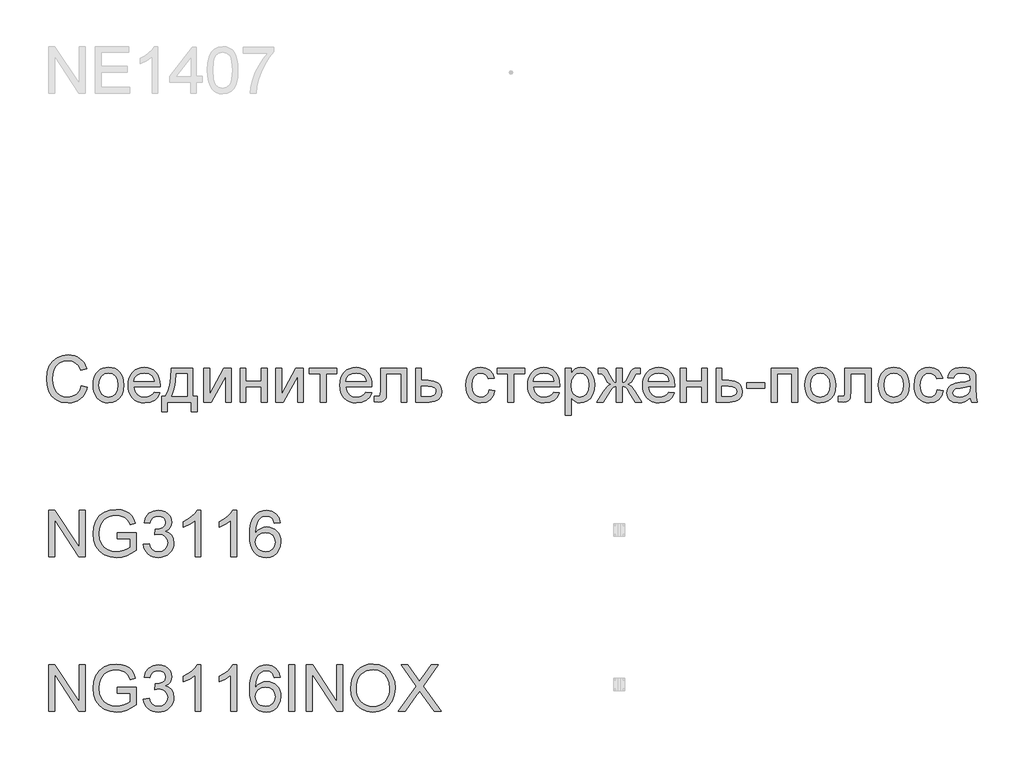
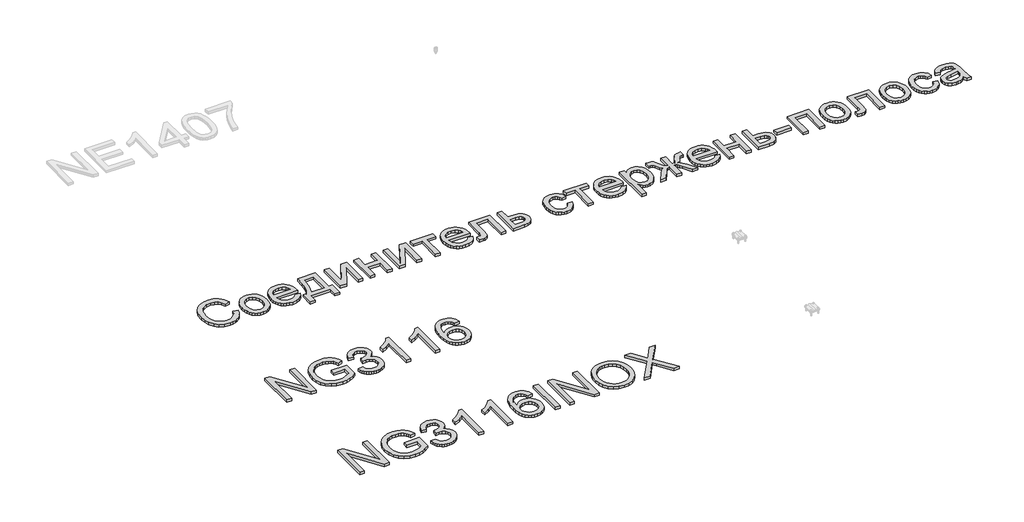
# One storey, part 44 of 124: 3 proxies.
"""IFC4 building model written with IfcOpenShell, lengths in millimetres."""

from ifc_helpers import new_model, si_unit, origin, origin_with_axes, place, context, project, spatial, polyline, outline, extrude, element, save

model = new_model("IFC4")

# Units and contexts
model_context = context("Model", 3, world=origin())
ifc_project = project(units=[si_unit("LENGTHUNIT", "METRE", prefix="MILLI")], contexts=[model_context])

# Site, building, storey
site = spatial("IfcSite", under=ifc_project)
building = spatial("IfcBuilding", under=site)
storey = spatial("IfcBuildingStorey", under=building, Name="Этаж 01", Elevation=0.0)

# Proxies
placement = place(None, origin())
element("IfcBuildingElementProxy", 1, Name="300", ObjectType="300", at=placement, inside=storey, context=model_context, shape_type="SweptSolid", body=[
    extrude(outline(polyline([(32939.8675381, -85074.498362), (32939.8675381, -84773.1294316), (32980.1874048, -84773.1294316), (33137.6408988, -85011.8848464), (33137.6408988, -84773.1294316), (33175.3120151, -84773.1294316), (33175.3120151, -85074.498362), (33134.9921484, -85074.498362), (32977.5386545, -84835.6693707), (32977.5386545, -85074.498362), (32939.8675381, -85074.498362)])), origin_with_axes(), (0.0, 0.0, 1.0), 20.0),
    extrude(outline(polyline([(33382.5031547, -84956.7761235), (33382.5031547, -84919.1050072), (33504.9342827, -84919.1050072), (33504.9342827, -85031.7504742), (33475.1818264, -85052.4438364), (33444.4912709, -85067.2878749), (33412.9361928, -85076.2274074), (33380.5901684, -85079.2072515), (33338.3297242, -85074.4707709), (33300.134376, -85060.2613288), (33268.4045539, -85037.075566), (33245.5406879, -85005.4101233), (33231.717522, -84967.4263073), (33227.1098, -84925.2854248), (33231.6991279, -84882.8410396), (33245.4671115, -84843.3581044), (33267.8435339, -84810.2395278), (33298.2581779, -84786.8882182), (33335.3038948, -84773.0374611), (33377.573536, -84768.420542), (33408.6043823, -84771.0968835), (33436.5082316, -84779.1259081), (33460.0066941, -84791.9282015), (33477.8213797, -84808.9243497), (33491.0007522, -84830.93289), (33500.5932752, -84858.77236), (33465.8652149, -84868.5580211), (33458.1121018, -84848.7015904), (33448.6851257, -84833.7195962), (33436.213926, -84822.4256189), (33419.3281425, -84813.6332392), (33399.1958003, -84807.9770535), (33376.9849248, -84806.0916583), (33350.9848648, -84808.1242063), (33328.7555953, -84814.2218504), (33310.3798896, -84823.6212354), (33295.9405213, -84835.5590061), (33276.5531401, -84864.5848956), (33267.7239723, -84893.0221738), (33264.7809163, -84923.7403204), (33268.3217805, -84959.7651648), (33278.9443731, -84989.4072565), (33296.3267974, -85012.4550635), (33320.1471566, -85028.6970536), (33348.0234147, -85038.3263648), (33377.573536, -85041.5361352), (33403.6655665, -85039.1173111), (33429.1138035, -85031.8608388), (33451.2143144, -85021.8636455), (33467.2631664, -85011.2226588), (33467.2631664, -84956.7761235), (33382.5031547, -84956.7761235)])), origin_with_axes(), (0.0, 0.0, 1.0), 20.0),
    extrude(outline(polyline([(33552.0231781, -84994.4472399), (33589.6942944, -84989.7383503), (33598.1279892, -85013.4115567), (33610.4796272, -85029.3960294), (33627.3562137, -85038.5011088), (33649.364754, -85041.5361352), (33675.1900701, -85037.3606746), (33695.1292742, -85024.8342927), (33707.8763854, -85006.1458873), (33712.1254224, -84983.4843564), (33707.9131736, -84961.9724567), (33695.276427, -84944.5256531), (33676.1465633, -84932.9649614), (33652.4549628, -84929.1113975), (33626.0410356, -84933.2316759), (33630.2348903, -84895.5605595), (33636.268155, -84896.0020179), (33658.8377154, -84893.2980853), (33679.0160429, -84885.1862873), (33693.2530761, -84871.4642889), (33697.9987538, -84851.9297549), (33694.5590572, -84835.6601737), (33684.2399672, -84822.4624071), (33668.4946178, -84813.7160127), (33648.7761429, -84810.8005479), (33629.0208797, -84813.7436038), (33612.8708601, -84822.5727717), (33601.0802422, -84837.2880515), (33594.403184, -84857.8894432), (33556.7320677, -84853.1805537), (33567.8237098, -84819.3538042), (33587.5605789, -84794.0987053), (33614.5631173, -84778.37175), (33647.4517677, -84773.1294316), (33671.1341711, -84775.7138026), (33692.8851941, -84783.4669156), (33711.2241115, -84795.698992), (33724.6701985, -84811.7202528), (33732.9199522, -84830.178732), (33735.6698701, -84849.7224629), (33733.0579079, -84867.9326217), (33725.2220215, -84884.4505233), (33712.2725752, -84898.5220096), (33694.3199339, -84909.3929226), (33717.9011697, -84918.9210662), (33735.3755645, -84935.1446622), (33746.1912952, -84957.1807937), (33749.7965387, -84984.146544), (33747.993917, -85003.2580136), (33742.5860516, -85020.8611671), (33733.5729427, -85036.9560044), (33720.9545903, -85051.5425255), (33705.5817214, -85063.6458431), (33688.3050632, -85072.29107), (33669.1246157, -85077.4782062), (33648.0403789, -85079.2072515), (33628.9840915, -85077.731125), (33611.6200613, -85073.3027455), (33595.9482883, -85065.922113), (33581.9687725, -85055.5892274), (33570.2471325, -85042.9110942), (33561.3489867, -85028.4947185), (33555.2743353, -85012.3401004), (33552.0231781, -84994.4472399)])), origin_with_axes(), (0.0, 0.0, 1.0), 20.0),
    extrude(outline(polyline([(33924.0254516, -85074.498362), (33886.3543353, -85074.498362), (33886.3543353, -84839.6424963), (33850.6697818, -84865.0631421), (33811.0121027, -84884.0826413), (33811.0121027, -84848.4716642), (33840.5990122, -84832.3768269), (33866.2311902, -84813.228569), (33886.4371088, -84792.8663006), (33899.74524, -84773.1294316), (33924.0254516, -84773.1294316), (33924.0254516, -85074.498362)])), origin_with_axes(), (0.0, 0.0, 1.0), 20.0),
    extrude(outline(polyline([(34154.761039, -85074.498362), (34117.0899227, -85074.498362), (34117.0899227, -84839.6424963), (34081.4053692, -84865.0631421), (34041.7476901, -84884.0826413), (34041.7476901, -84848.4716642), (34071.3345996, -84832.3768269), (34096.9667776, -84813.228569), (34117.1726962, -84792.8663006), (34130.4808273, -84773.1294316), (34154.761039, -84773.1294316), (34154.761039, -85074.498362)])), origin_with_axes(), (0.0, 0.0, 1.0), 20.0),
    extrude(outline(polyline([(34437.2944113, -84853.1805537), (34399.623295, -84857.8894432), (34393.5532421, -84839.219432), (34385.3494736, -84826.4723209), (34368.2613549, -84814.7184911), (34347.6047809, -84810.8005479), (34330.0935979, -84813.0814162), (34313.6124845, -84819.9240213), (34299.4582248, -84834.3357985), (34287.8975331, -84854.1738351), (34280.0892377, -84882.2340343), (34277.192167, -84921.3122992), (34292.30292, -84903.6815546), (34310.4119112, -84891.2563402), (34330.5074652, -84883.8895033), (34351.5779064, -84881.4338909), (34369.6777006, -84883.1123525), (34386.3795432, -84888.1477373), (34401.6834342, -84896.5400454), (34415.5893736, -84908.2892766), (34427.1454668, -84922.6964552), (34435.399819, -84939.0626055), (34440.3524304, -84957.3877274), (34442.0033009, -84977.6718209), (34438.894698, -85004.6467682), (34429.5688894, -85029.6535468), (34414.7984273, -85050.8619438), (34395.3558639, -85066.4417463), (34372.1241159, -85076.0158752), (34345.9861001, -85079.2072515), (34323.5292036, -85077.0919301), (34303.2474093, -85070.7459657), (34285.1407174, -85060.1693583), (34269.2091277, -85045.362108), (34256.220594, -85025.6988153), (34246.94307, -85000.554081), (34241.3765555, -84969.9279049), (34239.5210507, -84933.820287), (34241.5811899, -84893.339472), (34247.7616074, -84858.7907541), (34258.0623033, -84830.1741334), (34272.4832775, -84807.4896099), (34288.1136637, -84792.4570319), (34306.2364505, -84781.7194761), (34326.8516378, -84775.2769427), (34349.9592257, -84773.1294316), (34383.0134229, -84778.4453264), (34409.4825325, -84794.3930109), (34428.023785, -84819.7216862), (34437.2944113, -84853.1805537)]), holes=[polyline([(34277.192167, -84977.0832097), (34279.3718678, -84993.7758552), (34285.9109703, -85009.7143427), (34296.0645134, -85023.417947), (34309.087536, -85033.4059431), (34324.8052942, -85039.5035872), (34343.0430442, -85041.5361352), (34367.90267, -85037.3238864), (34387.446401, -85024.6871399), (34400.1107387, -85004.8215121), (34404.3321845, -84978.9226197), (34400.165921, -84954.0629938), (34387.6671302, -84935.107874), (34367.7923054, -84923.1057239), (34341.4979398, -84919.1050072), (34316.6751021, -84923.1057239), (34295.9173606, -84935.107874), (34281.8734654, -84953.6031413), (34277.192167, -84977.0832097)])]), origin_with_axes(), (0.0, 0.0, 1.0), 20.0),
])
element("IfcBuildingElementProxy", 2, Name="300", ObjectType="300", at=placement, inside=storey, context=model_context, shape_type="SweptSolid", body=[
    extrude(outline(polyline([(32939.8675381, -86074.498362), (32939.8675381, -85773.1294316), (32980.1874048, -85773.1294316), (33137.6408988, -86011.8848464), (33137.6408988, -85773.1294316), (33175.3120151, -85773.1294316), (33175.3120151, -86074.498362), (33134.9921484, -86074.498362), (32977.5386545, -85835.6693707), (32977.5386545, -86074.498362), (32939.8675381, -86074.498362)])), origin_with_axes(), (0.0, 0.0, 1.0), 20.0),
    extrude(outline(polyline([(33382.5031547, -85956.7761235), (33382.5031547, -85919.1050072), (33504.9342827, -85919.1050072), (33504.9342827, -86031.7504742), (33475.1818264, -86052.4438364), (33444.4912709, -86067.2878749), (33412.9361928, -86076.2274074), (33380.5901684, -86079.2072515), (33338.3297242, -86074.4707709), (33300.134376, -86060.2613288), (33268.4045539, -86037.075566), (33245.5406879, -86005.4101233), (33231.717522, -85967.4263073), (33227.1098, -85925.2854248), (33231.6991279, -85882.8410396), (33245.4671115, -85843.3581044), (33267.8435339, -85810.2395278), (33298.2581779, -85786.8882182), (33335.3038948, -85773.0374611), (33377.573536, -85768.420542), (33408.6043823, -85771.0968835), (33436.5082316, -85779.1259081), (33460.0066941, -85791.9282015), (33477.8213797, -85808.9243497), (33491.0007522, -85830.93289), (33500.5932752, -85858.77236), (33465.8652149, -85868.5580211), (33458.1121018, -85848.7015904), (33448.6851257, -85833.7195962), (33436.213926, -85822.4256189), (33419.3281425, -85813.6332392), (33399.1958003, -85807.9770535), (33376.9849248, -85806.0916583), (33350.9848648, -85808.1242063), (33328.7555953, -85814.2218504), (33310.3798896, -85823.6212354), (33295.9405213, -85835.5590061), (33276.5531401, -85864.5848956), (33267.7239723, -85893.0221738), (33264.7809163, -85923.7403204), (33268.3217805, -85959.7651648), (33278.9443731, -85989.4072565), (33296.3267974, -86012.4550635), (33320.1471566, -86028.6970536), (33348.0234147, -86038.3263648), (33377.573536, -86041.5361352), (33403.6655665, -86039.1173111), (33429.1138035, -86031.8608388), (33451.2143144, -86021.8636455), (33467.2631664, -86011.2226588), (33467.2631664, -85956.7761235), (33382.5031547, -85956.7761235)])), origin_with_axes(), (0.0, 0.0, 1.0), 20.0),
    extrude(outline(polyline([(33552.0231781, -85994.4472399), (33589.6942944, -85989.7383503), (33598.1279892, -86013.4115567), (33610.4796272, -86029.3960294), (33627.3562137, -86038.5011088), (33649.364754, -86041.5361352), (33675.1900701, -86037.3606746), (33695.1292742, -86024.8342927), (33707.8763854, -86006.1458873), (33712.1254224, -85983.4843564), (33707.9131736, -85961.9724567), (33695.276427, -85944.5256531), (33676.1465633, -85932.9649614), (33652.4549628, -85929.1113975), (33626.0410356, -85933.2316759), (33630.2348903, -85895.5605595), (33636.268155, -85896.0020179), (33658.8377154, -85893.2980853), (33679.0160429, -85885.1862873), (33693.2530761, -85871.4642889), (33697.9987538, -85851.9297549), (33694.5590572, -85835.6601737), (33684.2399672, -85822.4624071), (33668.4946178, -85813.7160127), (33648.7761429, -85810.8005479), (33629.0208797, -85813.7436038), (33612.8708601, -85822.5727717), (33601.0802422, -85837.2880515), (33594.403184, -85857.8894432), (33556.7320677, -85853.1805537), (33567.8237098, -85819.3538042), (33587.5605789, -85794.0987053), (33614.5631173, -85778.37175), (33647.4517677, -85773.1294316), (33671.1341711, -85775.7138026), (33692.8851941, -85783.4669156), (33711.2241115, -85795.698992), (33724.6701985, -85811.7202528), (33732.9199522, -85830.178732), (33735.6698701, -85849.7224629), (33733.0579079, -85867.9326217), (33725.2220215, -85884.4505233), (33712.2725752, -85898.5220096), (33694.3199339, -85909.3929226), (33717.9011697, -85918.9210662), (33735.3755645, -85935.1446622), (33746.1912952, -85957.1807937), (33749.7965387, -85984.146544), (33747.993917, -86003.2580136), (33742.5860516, -86020.8611671), (33733.5729427, -86036.9560044), (33720.9545903, -86051.5425255), (33705.5817214, -86063.6458431), (33688.3050632, -86072.29107), (33669.1246157, -86077.4782062), (33648.0403789, -86079.2072515), (33628.9840915, -86077.731125), (33611.6200613, -86073.3027455), (33595.9482883, -86065.922113), (33581.9687725, -86055.5892274), (33570.2471325, -86042.9110942), (33561.3489867, -86028.4947185), (33555.2743353, -86012.3401004), (33552.0231781, -85994.4472399)])), origin_with_axes(), (0.0, 0.0, 1.0), 20.0),
    extrude(outline(polyline([(33924.0254516, -86074.498362), (33886.3543353, -86074.498362), (33886.3543353, -85839.6424963), (33850.6697818, -85865.0631421), (33811.0121027, -85884.0826413), (33811.0121027, -85848.4716642), (33840.5990122, -85832.3768269), (33866.2311902, -85813.228569), (33886.4371088, -85792.8663006), (33899.74524, -85773.1294316), (33924.0254516, -85773.1294316), (33924.0254516, -86074.498362)])), origin_with_axes(), (0.0, 0.0, 1.0), 20.0),
    extrude(outline(polyline([(34154.761039, -86074.498362), (34117.0899227, -86074.498362), (34117.0899227, -85839.6424963), (34081.4053692, -85865.0631421), (34041.7476901, -85884.0826413), (34041.7476901, -85848.4716642), (34071.3345996, -85832.3768269), (34096.9667776, -85813.228569), (34117.1726962, -85792.8663006), (34130.4808273, -85773.1294316), (34154.761039, -85773.1294316), (34154.761039, -86074.498362)])), origin_with_axes(), (0.0, 0.0, 1.0), 20.0),
    extrude(outline(polyline([(34437.2944113, -85853.1805537), (34399.623295, -85857.8894432), (34393.5532421, -85839.219432), (34385.3494736, -85826.4723209), (34368.2613549, -85814.7184911), (34347.6047809, -85810.8005479), (34330.0935979, -85813.0814162), (34313.6124845, -85819.9240213), (34299.4582248, -85834.3357985), (34287.8975331, -85854.1738351), (34280.0892377, -85882.2340343), (34277.192167, -85921.3122992), (34292.30292, -85903.6815546), (34310.4119112, -85891.2563402), (34330.5074652, -85883.8895033), (34351.5779064, -85881.4338909), (34369.6777006, -85883.1123525), (34386.3795432, -85888.1477373), (34401.6834342, -85896.5400454), (34415.5893736, -85908.2892766), (34427.1454668, -85922.6964552), (34435.399819, -85939.0626055), (34440.3524304, -85957.3877274), (34442.0033009, -85977.6718209), (34438.894698, -86004.6467682), (34429.5688894, -86029.6535468), (34414.7984273, -86050.8619438), (34395.3558639, -86066.4417463), (34372.1241159, -86076.0158752), (34345.9861001, -86079.2072515), (34323.5292036, -86077.0919301), (34303.2474093, -86070.7459657), (34285.1407174, -86060.1693583), (34269.2091277, -86045.362108), (34256.220594, -86025.6988153), (34246.94307, -86000.554081), (34241.3765555, -85969.9279049), (34239.5210507, -85933.820287), (34241.5811899, -85893.339472), (34247.7616074, -85858.7907541), (34258.0623033, -85830.1741334), (34272.4832775, -85807.4896099), (34288.1136637, -85792.4570319), (34306.2364505, -85781.7194761), (34326.8516378, -85775.2769427), (34349.9592257, -85773.1294316), (34383.0134229, -85778.4453264), (34409.4825325, -85794.3930109), (34428.023785, -85819.7216862), (34437.2944113, -85853.1805537)]), holes=[polyline([(34277.192167, -85977.0832097), (34279.3718678, -85993.7758552), (34285.9109703, -86009.7143427), (34296.0645134, -86023.417947), (34309.087536, -86033.4059431), (34324.8052942, -86039.5035872), (34343.0430442, -86041.5361352), (34367.90267, -86037.3238864), (34387.446401, -86024.6871399), (34400.1107387, -86004.8215121), (34404.3321845, -85978.9226197), (34400.165921, -85954.0629938), (34387.6671302, -85935.107874), (34367.7923054, -85923.1057239), (34341.4979398, -85919.1050072), (34316.6751021, -85923.1057239), (34295.9173606, -85935.107874), (34281.8734654, -85953.6031413), (34277.192167, -85977.0832097)])]), origin_with_axes(), (0.0, 0.0, 1.0), 20.0),
    extrude(outline(polyline([(34493.8010858, -86074.498362), (34493.8010858, -85773.1294316), (34531.4722021, -85773.1294316), (34531.4722021, -86074.498362), (34493.8010858, -86074.498362)])), origin_with_axes(), (0.0, 0.0, 1.0), 20.0),
    extrude(outline(polyline([(34606.8144347, -86074.498362), (34606.8144347, -85773.1294316), (34647.1343014, -85773.1294316), (34804.5877953, -86011.8848464), (34804.5877953, -85773.1294316), (34842.2589116, -85773.1294316), (34842.2589116, -86074.498362), (34801.9390449, -86074.498362), (34644.485551, -85835.6693707), (34644.485551, -86074.498362), (34606.8144347, -86074.498362)])), origin_with_axes(), (0.0, 0.0, 1.0), 20.0),
    extrude(outline(polyline([(34894.0566965, -85927.7870223), (34896.5674911, -85892.4381611), (34904.099875, -85861.1451989), (34916.6538481, -85833.9081357), (34934.2294104, -85810.7269715), (34955.7734997, -85792.2179086), (34980.2330539, -85778.9971494), (35007.6080729, -85771.0646939), (35037.8985566, -85768.420542), (35077.427477, -85773.3869489), (35112.8729073, -85788.2861698), (35142.3034669, -85812.0697407), (35163.7877754, -85843.6891982), (35176.9211626, -85881.6178319), (35181.2989584, -85924.3289316), (35176.6912364, -85967.6102483), (35162.8680704, -86006.0723109), (35140.5928156, -86037.7469507), (35110.6288271, -86060.665999), (35075.4868995, -86074.5719384), (35037.6778274, -86079.2072515), (34997.5419018, -86074.0844948), (34961.8941364, -86058.7162244), (34932.5371532, -86034.491195), (34911.2735739, -86002.7981611), (34898.3609159, -85966.3318584), (34894.0566965, -85927.7870223)]), holes=[polyline([(34931.7278128, -85928.1549043), (34933.6109088, -85953.1294933), (34939.2601967, -85975.298982), (34948.6756765, -85994.6633705), (34961.8573482, -86011.2226588), (34977.8809084, -86024.4848048), (34995.8220534, -86033.9577661), (35015.6807834, -86039.641543), (35037.4570982, -86041.5361352), (35059.6058936, -86039.6231489), (35079.6991483, -86033.8841897), (35097.7368624, -86024.3192579), (35113.7190358, -86010.9283532), (35126.8041386, -85994.019577), (35136.1506405, -85973.9010304), (35141.7585417, -85950.5727134), (35143.6278421, -85924.034626), (35140.4272687, -85890.6861231), (35130.8255486, -85861.8625688), (35115.0710022, -85838.2905299), (35093.4119497, -85820.6965735), (35067.283131, -85809.7428871), (35038.1192858, -85806.0916583), (35017.0994283, -85807.8505941), (34997.5970841, -85813.1274015), (34979.612253, -85821.9220804), (34963.1449352, -85834.234631), (34949.3999442, -85850.6582628), (34939.5820934, -85871.7861856), (34933.691383, -85897.6183995), (34931.7278128, -85928.1549043)])]), origin_with_axes(), (0.0, 0.0, 1.0), 20.0),
    extrude(outline(polyline([(35200.1345165, -86074.498362), (35316.3116506, -85910.2758394), (35218.9700747, -85773.1294316), (35264.1459837, -85773.1294316), (35318.960401, -85850.3110741), (35337.4280771, -85880.4038213), (35359.0595384, -85849.7960393), (35413.2853445, -85773.1294316), (35459.1234411, -85773.1294316), (35361.7818652, -85910.7172977), (35477.9589993, -86074.498362), (35432.7830903, -86074.498362), (35355.3807185, -85965.3109858), (35339.2674871, -85942.6494549), (35321.5355749, -85967.5182778), (35245.9726131, -86074.498362), (35200.1345165, -86074.498362)])), origin_with_axes(), (0.0, 0.0, 1.0), 20.0),
])
element("IfcBuildingElementProxy", 3, Name="300", ObjectType="300", at=placement, inside=storey, context=model_context, shape_type="SweptSolid", body=[
    extrude(outline(polyline([(33151.7675674, -83967.371125), (33189.4386837, -83977.0832097), (33181.9844747, -84000.510395), (33172.0562594, -84020.9807288), (33159.6540376, -84038.494211), (33144.7778095, -84053.0508417), (33127.7632672, -84064.494271), (33108.9461031, -84072.6681491), (33088.3263173, -84077.5724759), (33065.9039097, -84079.2072515), (33022.2087257, -84074.2592387), (32987.5082565, -84059.4152002), (32960.9103883, -84035.1901708), (32941.5230071, -84002.0991854), (32929.6864039, -83963.1956644), (32925.7408695, -83921.5330284), (32930.2014387, -83877.5895241), (32943.5831463, -83839.6424963), (32965.1870165, -83808.8967585), (32994.3140734, -83786.5571244), (33028.8581928, -83772.9546876), (33066.7132501, -83768.420542), (33108.0172011, -83774.2882598), (33125.9859373, -83781.6229071), (33142.1658473, -83791.8914133), (33156.2902166, -83804.8224654), (33168.0923309, -83820.1447505), (33184.7297941, -83857.9630196), (33147.0586778, -83866.9393403), (33133.998867, -83839.4677523), (33116.1565902, -83820.6229971), (33093.3111183, -83809.724493), (33065.2417221, -83806.0916583), (33032.8865006, -83810.1199662), (33006.3070265, -83822.2048897), (32986.1378961, -83841.0772361), (32973.0137059, -83865.4678123), (32965.8124159, -83893.0405679), (32963.4119858, -83921.459452), (32966.2538743, -83956.2610888), (32974.7795395, -83986.353836), (32989.3108783, -84010.5880624), (33010.1697874, -84027.8141368), (33035.176566, -84038.1056356), (33062.1515133, -84041.5361352), (33093.5962269, -84036.8640339), (33119.798622, -84022.8477299), (33139.5814763, -83999.634376), (33151.7675674, -83967.371125)])), origin_with_axes(), (0.0, 0.0, 1.0), 20.0),
    extrude(outline(polyline([(33227.1098, -83963.8394579), (33229.1469465, -83935.1768519), (33235.2583862, -83910.4781745), (33245.4441189, -83889.7434255), (33259.7041448, -83872.972605), (33274.0607396, -83862.2534434), (33289.9072566, -83854.5968994), (33307.2436956, -83850.002973), (33326.0700567, -83848.4716642), (33346.8530902, -83850.336366), (33365.6449623, -83855.9304716), (33382.4456732, -83865.2539809), (33397.2552228, -83878.306894), (33409.3424456, -83894.6477523), (33417.9761761, -83913.8350977), (33423.1564145, -83935.8689299), (33424.8831606, -83960.7492491), (33421.82974, -83998.8066415), (33412.6694784, -84027.7773486), (33397.66909, -84049.4731893), (33377.0952894, -84065.7059823), (33352.6587279, -84075.8319342), (33326.0700567, -84079.2072515), (33304.9835206, -84077.3494475), (33286.0169045, -84071.7760352), (33269.1702083, -84062.4870149), (33254.4434322, -84049.4823863), (33242.4849681, -84032.9828788), (33233.943208, -84013.2092216), (33228.818152, -83990.1614146), (33227.1098, -83963.8394579)]), holes=[polyline([(33264.7809163, -83963.7658815), (33269.1403179, -83997.8593454), (33282.2185229, -84022.1487541), (33301.9002096, -84036.6892899), (33326.0700567, -84041.5361352), (33350.1295392, -84036.6616988), (33369.7744377, -84022.0383895), (33382.8526426, -83997.427084), (33387.2120443, -83962.5886591), (33382.8250515, -83929.4884766), (33369.6640731, -83905.5301616), (33349.9915834, -83890.9896258), (33326.0700567, -83886.1427805), (33301.9002096, -83890.9712317), (33282.2185229, -83905.4565852), (33269.1403179, -83929.6908117), (33264.7809163, -83963.7658815)])]), origin_with_axes(), (0.0, 0.0, 1.0), 20.0),
    extrude(outline(polyline([(33622.2150628, -84008.5739085), (33659.1504151, -84013.282798), (33645.8422839, -84041.1130709), (33624.6062958, -84061.9167978), (33595.9206972, -84074.8846381), (33560.2637348, -84079.2072515), (33536.8894325, -84077.3425497), (33516.0627131, -84071.7484441), (33497.7835765, -84062.4249348), (33482.0520226, -84049.3720217), (33469.4014805, -84032.9529884), (33460.365379, -84013.5311184), (33454.9437181, -83991.1064115), (33453.1364978, -83965.6788678), (33454.9621122, -83939.3891007), (33460.4389554, -83916.2171336), (33469.5670274, -83896.1629663), (33482.3463282, -83879.226599), (33498.0364953, -83865.771315), (33515.8971662, -83856.1603979), (33535.9283408, -83850.3938476), (33558.1300192, -83848.4716642), (33579.616627, -83850.3892491), (33599.0476942, -83856.1420038), (33616.4232206, -83865.7299283), (33631.7432065, -83879.1530226), (33644.2488951, -83896.0526017), (33653.1815297, -83916.0699808), (33658.5411106, -83939.2051598), (33660.3276375, -83965.4581386), (33660.1069083, -83975.6116817), (33490.8076141, -83975.6116817), (33497.3283225, -84003.8098366), (33512.4758636, -84024.5399871), (33534.3372512, -84037.2870982), (33560.9994988, -84041.5361352), (33581.0490675, -84039.5679666), (33597.9348511, -84033.6634605), (33611.6568495, -84023.4547352), (33622.2150628, -84008.5739085)]), holes=[polyline([(33490.8076141, -83937.9405654), (33622.6565212, -83937.9405654), (33617.5613556, -83918.0381495), (33607.5733594, -83903.8011162), (33585.6108043, -83890.5573644), (33557.9828664, -83886.1427805), (33532.5898117, -83889.6652506), (33511.5929469, -83900.2326609), (33496.9972287, -83916.7045772), (33490.8076141, -83937.9405654)])]), origin_with_axes(), (0.0, 0.0, 1.0), 20.0),
    extrude(outline(polyline([(33730.9609806, -83853.1805537), (33872.2276667, -83853.1805537), (33872.2276667, -84036.8272457), (33900.481004, -84036.8272457), (33900.481004, -84135.713926), (33862.8098876, -84135.713926), (33862.8098876, -84074.498362), (33707.4165329, -84074.498362), (33707.4165329, -84135.713926), (33669.7454166, -84135.713926), (33669.7454166, -84036.8272457), (33693.2898643, -84036.8272457), (33710.4055741, -84005.897567), (33722.3893301, -83964.979892), (33729.2411322, -83914.074221), (33730.9609806, -83853.1805537)]), holes=[polyline([(33763.9232073, -83890.85167), (33760.8329986, -83936.9748752), (33755.0940395, -83976.6785395), (33746.70633, -84009.962663), (33735.6698701, -84036.8272457), (33834.5565504, -84036.8272457), (33834.5565504, -83890.85167), (33763.9232073, -83890.85167)])]), origin_with_axes(), (0.0, 0.0, 1.0), 20.0),
    extrude(outline(polyline([(33942.8610098, -83853.1805537), (33980.5321261, -83853.1805537), (33980.5321261, -84021.9648131), (34073.0912361, -83853.1805537), (34121.7988123, -83853.1805537), (34121.7988123, -84074.498362), (34084.1276959, -84074.498362), (34084.1276959, -83906.7441722), (33992.1571972, -84074.498362), (33942.8610098, -84074.498362), (33942.8610098, -83853.1805537)])), origin_with_axes(), (0.0, 0.0, 1.0), 20.0),
    extrude(outline(polyline([(34178.3054867, -83853.1805537), (34215.976603, -83853.1805537), (34215.976603, -83937.9405654), (34314.8632833, -83937.9405654), (34314.8632833, -83853.1805537), (34352.5343996, -83853.1805537), (34352.5343996, -84074.498362), (34314.8632833, -84074.498362), (34314.8632833, -83975.6116817), (34215.976603, -83975.6116817), (34215.976603, -84074.498362), (34178.3054867, -84074.498362), (34178.3054867, -83853.1805537)])), origin_with_axes(), (0.0, 0.0, 1.0), 20.0),
    extrude(outline(polyline([(34409.0410741, -83853.1805537), (34446.7121904, -83853.1805537), (34446.7121904, -84021.9648131), (34539.2713004, -83853.1805537), (34587.9788765, -83853.1805537), (34587.9788765, -84074.498362), (34550.3077602, -84074.498362), (34550.3077602, -83906.7441722), (34458.3372614, -84074.498362), (34409.0410741, -84074.498362), (34409.0410741, -83853.1805537)])), origin_with_axes(), (0.0, 0.0, 1.0), 20.0),
    extrude(outline(polyline([(34625.6499928, -83853.1805537), (34804.5877953, -83853.1805537), (34804.5877953, -83890.85167), (34733.9544522, -83890.85167), (34733.9544522, -84074.498362), (34696.2833359, -84074.498362), (34696.2833359, -83890.85167), (34625.6499928, -83890.85167), (34625.6499928, -83853.1805537)])), origin_with_axes(), (0.0, 0.0, 1.0), 20.0),
    extrude(outline(polyline([(34992.5019184, -84008.5739085), (35029.4372708, -84013.282798), (35016.1291396, -84041.1130709), (34994.8931514, -84061.9167978), (34966.2075528, -84074.8846381), (34930.5505904, -84079.2072515), (34907.1762882, -84077.3425497), (34886.3495687, -84071.7484441), (34868.0704321, -84062.4249348), (34852.3388783, -84049.3720217), (34839.6883362, -84032.9529884), (34830.6522347, -84013.5311184), (34825.2305738, -83991.1064115), (34823.4233535, -83965.6788678), (34825.2489679, -83939.3891007), (34830.7258111, -83916.2171336), (34839.8538831, -83896.1629663), (34852.6331839, -83879.226599), (34868.323351, -83865.771315), (34886.1840218, -83856.1603979), (34906.2151965, -83850.3938476), (34928.4168749, -83848.4716642), (34949.9034827, -83850.3892491), (34969.3345498, -83856.1420038), (34986.7100763, -83865.7299283), (35002.0300621, -83879.1530226), (35014.5357507, -83896.0526017), (35023.4683854, -83916.0699808), (35028.8279662, -83939.2051598), (35030.6144931, -83965.4581386), (35030.3937639, -83975.6116817), (34861.0944698, -83975.6116817), (34867.6151781, -84003.8098366), (34882.7627193, -84024.5399871), (34904.6241068, -84037.2870982), (34931.2863544, -84041.5361352), (34951.3359232, -84039.5679666), (34968.2217068, -84033.6634605), (34981.9437052, -84023.4547352), (34992.5019184, -84008.5739085)]), holes=[polyline([(34861.0944698, -83937.9405654), (34992.9433768, -83937.9405654), (34987.8482112, -83918.0381495), (34977.860215, -83903.8011162), (34955.8976599, -83890.5573644), (34928.2697221, -83886.1427805), (34902.8766674, -83889.6652506), (34881.8798025, -83900.2326609), (34867.2840843, -83916.7045772), (34861.0944698, -83937.9405654)])]), origin_with_axes(), (0.0, 0.0, 1.0), 20.0),
    extrude(outline(polyline([(35087.1211676, -83853.1805537), (35256.641191, -83853.1805537), (35256.641191, -84074.2776328), (35218.9700747, -84074.2776328), (35218.9700747, -83890.85167), (35124.7922839, -83890.85167), (35124.7922839, -83996.4338026), (35122.2538981, -84045.1413788), (35117.4990233, -84056.1686416), (35108.3111705, -84065.7059823), (35094.3684429, -84072.3002671), (35075.3489438, -84074.498362), (35044.7411618, -84072.5853756), (35044.7411618, -84036.8272457), (35061.5901571, -84036.8272457), (35078.6230935, -84034.5095891), (35085.4289104, -84027.1519492), (35087.1211676, -83994.3000871), (35087.1211676, -83853.1805537)])), origin_with_axes(), (0.0, 0.0, 1.0), 20.0),
    extrude(outline(polyline([(35313.1478654, -83853.1805537), (35350.8189817, -83853.1805537), (35350.8189817, -83933.2316759), (35394.2290572, -83933.2316759), (35431.8633853, -83937.9497624), (35447.0109264, -83943.8473707), (35459.7120523, -83952.1040222), (35469.7552308, -83962.4346085), (35476.9289297, -83974.554021), (35482.6678888, -84004.1593245), (35477.7842553, -84031.1158777), (35463.1333549, -84053.8601821), (35451.9014577, -84062.8893858), (35437.7403002, -84069.338817), (35400.6302039, -84074.498362), (35313.1478654, -84074.498362), (35313.1478654, -83853.1805537)]), holes=[polyline([(35350.8189817, -84036.8272457), (35385.9885005, -84036.8272457), (35413.2761475, -84034.84988), (35431.4219269, -84028.9177828), (35441.6030611, -84018.7918309), (35444.9967725, -84004.2329009), (35442.4859779, -83991.9272482), (35434.953594, -83981.0563352), (35418.8127715, -83973.4411779), (35390.4766608, -83970.9027922), (35350.8189817, -83970.9027922), (35350.8189817, -84036.8272457)])]), origin_with_axes(), (0.0, 0.0, 1.0), 20.0),
    extrude(outline(polyline([(35788.7457088, -83994.4472399), (35826.4168251, -83999.1561294), (35815.9137941, -84032.6609821), (35796.1769251, -84057.9804604), (35769.0640221, -84073.9005538), (35736.4328891, -84079.2072515), (35715.3049662, -84077.3563453), (35696.3613428, -84071.8036264), (35679.6020186, -84062.5490949), (35665.0269938, -84049.5927509), (35653.2294781, -84033.1783162), (35644.8026811, -84013.5495125), (35639.746603, -83990.7063398), (35638.0612436, -83964.6487982), (35640.9399202, -83931.1255514), (35649.57595, -83902.0720709), (35664.1072888, -83878.6103966), (35684.6718924, -83861.8625688), (35709.2740008, -83851.8193903), (35735.9178543, -83848.4716642), (35767.7488439, -83853.0701891), (35793.1970809, -83866.8657639), (35811.453225, -83889.1226246), (35821.7079356, -83919.1050072), (35784.0368193, -83923.8138968), (35777.2034112, -83907.3787686), (35766.5624245, -83895.5973477), (35752.7024703, -83888.5064223), (35736.2121599, -83886.1427805), (35711.8675689, -83890.7964877), (35692.5445671, -83904.7576094), (35679.9354117, -83928.7803037), (35675.7323599, -83963.6187287), (35679.8434412, -83998.9262031), (35692.1766851, -84023.0316709), (35711.150199, -84036.9100191), (35735.1820903, -84041.5361352), (35754.6890331, -84038.6482616), (35770.6827028, -84029.9846406), (35782.3169709, -84015.3245431), (35788.7457088, -83994.4472399)])), origin_with_axes(), (0.0, 0.0, 1.0), 20.0),
    extrude(outline(polyline([(35840.5434937, -83853.1805537), (36019.4812962, -83853.1805537), (36019.4812962, -83890.85167), (35948.8479531, -83890.85167), (35948.8479531, -84074.498362), (35911.1768368, -84074.498362), (35911.1768368, -83890.85167), (35840.5434937, -83890.85167), (35840.5434937, -83853.1805537)])), origin_with_axes(), (0.0, 0.0, 1.0), 20.0),
    extrude(outline(polyline([(36207.3954193, -84008.5739085), (36244.3307716, -84013.282798), (36231.0226404, -84041.1130709), (36209.7866523, -84061.9167978), (36181.1010537, -84074.8846381), (36145.4440913, -84079.2072515), (36122.0697891, -84077.3425497), (36101.2430696, -84071.7484441), (36082.963933, -84062.4249348), (36067.2323791, -84049.3720217), (36054.581837, -84032.9529884), (36045.5457355, -84013.5311184), (36040.1240746, -83991.1064115), (36038.3168543, -83965.6788678), (36040.1424687, -83939.3891007), (36045.6193119, -83916.2171336), (36054.7473839, -83896.1629663), (36067.5266847, -83879.226599), (36083.2168518, -83865.771315), (36101.0775227, -83856.1603979), (36121.1086973, -83850.3938476), (36143.3103757, -83848.4716642), (36164.7969835, -83850.3892491), (36184.2280507, -83856.1420038), (36201.6035771, -83865.7299283), (36216.923563, -83879.1530226), (36229.4292516, -83896.0526017), (36238.3618863, -83916.0699808), (36243.7214671, -83939.2051598), (36245.507994, -83965.4581386), (36245.2872648, -83975.6116817), (36075.9879706, -83975.6116817), (36082.508679, -84003.8098366), (36097.6562201, -84024.5399871), (36119.5176077, -84037.2870982), (36146.1798553, -84041.5361352), (36166.229424, -84039.5679666), (36183.1152076, -84033.6634605), (36196.837206, -84023.4547352), (36207.3954193, -84008.5739085)]), holes=[polyline([(36075.9879706, -83937.9405654), (36207.8368777, -83937.9405654), (36202.7417121, -83918.0381495), (36192.7537159, -83903.8011162), (36170.7911608, -83890.5573644), (36143.163223, -83886.1427805), (36117.7701682, -83889.6652506), (36096.7733034, -83900.2326609), (36082.1775852, -83916.7045772), (36075.9879706, -83937.9405654)])]), origin_with_axes(), (0.0, 0.0, 1.0), 20.0),
    extrude(outline(polyline([(36283.1791103, -84159.2583737), (36283.1791103, -83853.1805537), (36320.8502266, -83853.1805537), (36320.8502266, -83890.115906), (36333.1374853, -83871.8965502), (36346.8962719, -83858.8827246), (36362.9359269, -83851.0744293), (36382.0657906, -83848.4716642), (36407.5416188, -83852.1136959), (36429.8168736, -83863.0397912), (36447.953456, -83880.5877623), (36461.0132668, -83904.0954218), (36468.9043356, -83931.8521184), (36471.5346918, -83962.1472007), (36468.5640447, -83994.3644664), (36459.6521034, -84023.1788237), (36445.0839764, -84047.1279416), (36425.1447723, -84064.7494891), (36401.9222213, -84075.5928109), (36377.5040539, -84079.2072515), (36360.186009, -84076.7884274), (36344.7257681, -84069.5319551), (36331.4912133, -84058.5782687), (36320.8502266, -84045.0678024), (36320.8502266, -84159.2583737), (36283.1791103, -84159.2583737)]), holes=[polyline([(36320.8502266, -83965.6052914), (36324.9245197, -83999.3768586), (36337.147399, -84022.9948827), (36355.1828138, -84036.9008221), (36376.6947135, -84041.5361352), (36398.5561011, -84036.7352752), (36417.0513684, -84022.3326951), (36429.6605237, -83997.8501483), (36433.8635755, -83962.8093883), (36429.7616913, -83929.2217621), (36417.4560386, -83905.2726442), (36399.4482149, -83890.9252464), (36378.2398179, -83886.1427805), (36356.9486474, -83891.2287491), (36338.251045, -83906.4866548), (36325.2004312, -83931.4382511), (36320.8502266, -83965.6052914)])]), origin_with_axes(), (0.0, 0.0, 1.0), 20.0),
    extrude(outline(polyline([(36650.4724943, -83853.1805537), (36650.4724943, -83947.3583445), (36663.7622314, -83945.4177669), (36672.4350494, -83939.5960344), (36693.2203821, -83899.3129559), (36706.1882225, -83874.2050097), (36718.0156286, -83860.6853464), (36732.3814205, -83855.0567519), (36753.2587238, -83853.1805537), (36768.1947328, -83853.1805537), (36768.1947328, -83891.0723992), (36757.8204605, -83890.85167), (36738.3962911, -83894.7512192), (36724.9318101, -83919.1785836), (36709.2968253, -83945.9603929), (36686.9663882, -83959.5720267), (36699.3594129, -83964.874126), (36711.5960878, -83974.2321242), (36735.600388, -84005.1158177), (36777.6125118, -84074.498362), (36734.4231656, -84074.498362), (36693.0732293, -84006.0723109), (36681.770055, -83988.1104725), (36671.993591, -83977.6350327), (36662.1067624, -83972.5858523), (36650.4724943, -83970.9027922), (36650.4724943, -84074.498362), (36612.801378, -84074.498362), (36612.801378, -83970.9027922), (36601.2590804, -83972.5490641), (36591.3538577, -83977.4878799), (36581.5038173, -83987.8897433), (36570.1270666, -84005.9251581), (36528.7771303, -84074.498362), (36485.6613605, -84074.498362), (36527.5263315, -84005.1158177), (36551.7145727, -83974.2321242), (36564.0156269, -83964.874126), (36576.4546369, -83959.5720267), (36562.0704509, -83952.3615396), (36552.7630364, -83944.5624413), (36532.4559502, -83905.9348318), (36522.5231364, -83893.2061148), (36506.2627522, -83890.6309408), (36495.0791395, -83890.85167), (36495.0791395, -83853.1805537), (36500.7445223, -83853.1805537), (36533.7803254, -83855.5349985), (36550.9236264, -83865.5413887), (36570.1270666, -83899.3129559), (36590.6916701, -83939.338517), (36599.3644881, -83945.3533876), (36612.801378, -83947.3583445), (36612.801378, -83853.1805537), (36650.4724943, -83853.1805537)])), origin_with_axes(), (0.0, 0.0, 1.0), 20.0),
    extrude(outline(polyline([(36951.3999664, -84008.5739085), (36988.3353187, -84013.282798), (36975.0271875, -84041.1130709), (36953.7911993, -84061.9167978), (36925.1056007, -84074.8846381), (36889.4486384, -84079.2072515), (36866.0743361, -84077.3425497), (36845.2476166, -84071.7484441), (36826.96848, -84062.4249348), (36811.2369262, -84049.3720217), (36798.5863841, -84032.9529884), (36789.5502826, -84013.5311184), (36784.1286217, -83991.1064115), (36782.3214014, -83965.6788678), (36784.1470158, -83939.3891007), (36789.623859, -83916.2171336), (36798.751931, -83896.1629663), (36811.5312318, -83879.226599), (36827.2213989, -83865.771315), (36845.0820697, -83856.1603979), (36865.1132444, -83850.3938476), (36887.3149228, -83848.4716642), (36908.8015306, -83850.3892491), (36928.2325977, -83856.1420038), (36945.6081242, -83865.7299283), (36960.92811, -83879.1530226), (36973.4337986, -83896.0526017), (36982.3664333, -83916.0699808), (36987.7260141, -83939.2051598), (36989.5125411, -83965.4581386), (36989.2918119, -83975.6116817), (36819.9925177, -83975.6116817), (36826.513226, -84003.8098366), (36841.6607672, -84024.5399871), (36863.5221548, -84037.2870982), (36890.1844024, -84041.5361352), (36910.2339711, -84039.5679666), (36927.1197547, -84033.6634605), (36940.8417531, -84023.4547352), (36951.3999664, -84008.5739085)]), holes=[polyline([(36819.9925177, -83937.9405654), (36951.8414247, -83937.9405654), (36946.7462591, -83918.0381495), (36936.7582629, -83903.8011162), (36914.7957078, -83890.5573644), (36887.16777, -83886.1427805), (36861.7747153, -83889.6652506), (36840.7778504, -83900.2326609), (36826.1821322, -83916.7045772), (36819.9925177, -83937.9405654)])]), origin_with_axes(), (0.0, 0.0, 1.0), 20.0),
    extrude(outline(polyline([(37027.1836574, -83853.1805537), (37064.8547737, -83853.1805537), (37064.8547737, -83937.9405654), (37163.741454, -83937.9405654), (37163.741454, -83853.1805537), (37201.4125703, -83853.1805537), (37201.4125703, -84074.498362), (37163.741454, -84074.498362), (37163.741454, -83975.6116817), (37064.8547737, -83975.6116817), (37064.8547737, -84074.498362), (37027.1836574, -84074.498362), (37027.1836574, -83853.1805537)])), origin_with_axes(), (0.0, 0.0, 1.0), 20.0),
    extrude(outline(polyline([(37257.9192447, -83853.1805537), (37295.590361, -83853.1805537), (37295.590361, -83933.2316759), (37339.0004365, -83933.2316759), (37376.6347646, -83937.9497624), (37391.7823057, -83943.8473707), (37404.4834316, -83952.1040222), (37414.5266101, -83962.4346085), (37421.700309, -83974.554021), (37427.4392681, -84004.1593245), (37422.5556346, -84031.1158777), (37407.9047342, -84053.8601821), (37396.672837, -84062.8893858), (37382.5116795, -84069.338817), (37345.4015832, -84074.498362), (37257.9192447, -84074.498362), (37257.9192447, -83853.1805537)]), holes=[polyline([(37295.590361, -84036.8272457), (37330.7598798, -84036.8272457), (37358.0475268, -84034.84988), (37376.1933062, -84028.9177828), (37386.3744404, -84018.7918309), (37389.7681518, -84004.2329009), (37387.2573572, -83991.9272482), (37379.7249733, -83981.0563352), (37363.5841508, -83973.4411779), (37335.2480401, -83970.9027922), (37295.590361, -83970.9027922), (37295.590361, -84036.8272457)])]), origin_with_axes(), (0.0, 0.0, 1.0), 20.0),
    extrude(outline(polyline([(37455.6926053, -83985.0294608), (37455.6926053, -83947.3583445), (37573.4148438, -83947.3583445), (37573.4148438, -83985.0294608), (37455.6926053, -83985.0294608)])), origin_with_axes(), (0.0, 0.0, 1.0), 20.0),
    extrude(outline(polyline([(37615.7948496, -83853.1805537), (37785.314873, -83853.1805537), (37785.314873, -84074.498362), (37747.6437567, -84074.498362), (37747.6437567, -83890.85167), (37653.465966, -83890.85167), (37653.465966, -84074.498362), (37615.7948496, -84074.498362), (37615.7948496, -83853.1805537)])), origin_with_axes(), (0.0, 0.0, 1.0), 20.0),
    extrude(outline(polyline([(37832.4037684, -83963.8394579), (37834.440915, -83935.1768519), (37840.5523546, -83910.4781745), (37850.7380873, -83889.7434255), (37864.9981132, -83872.972605), (37879.354708, -83862.2534434), (37895.201225, -83854.5968994), (37912.537664, -83850.002973), (37931.3640251, -83848.4716642), (37952.1470586, -83850.336366), (37970.9389307, -83855.9304716), (37987.7396416, -83865.2539809), (38002.5491912, -83878.306894), (38014.636414, -83894.6477523), (38023.2701446, -83913.8350977), (38028.4503829, -83935.8689299), (38030.177129, -83960.7492491), (38027.1237085, -83998.8066415), (38017.9634468, -84027.7773486), (38002.9630584, -84049.4731893), (37982.3892578, -84065.7059823), (37957.9526963, -84075.8319342), (37931.3640251, -84079.2072515), (37910.277489, -84077.3494475), (37891.3108729, -84071.7760352), (37874.4641768, -84062.4870149), (37859.7374006, -84049.4823863), (37847.7789365, -84032.9828788), (37839.2371765, -84013.2092216), (37834.1121204, -83990.1614146), (37832.4037684, -83963.8394579)]), holes=[polyline([(37870.0748847, -83963.7658815), (37874.4342864, -83997.8593454), (37887.5124913, -84022.1487541), (37907.194178, -84036.6892899), (37931.3640251, -84041.5361352), (37955.4235076, -84036.6616988), (37975.0684061, -84022.0383895), (37988.1466111, -83997.427084), (37992.5060127, -83962.5886591), (37988.1190199, -83929.4884766), (37974.9580415, -83905.5301616), (37955.2855518, -83890.9896258), (37931.3640251, -83886.1427805), (37907.194178, -83890.9712317), (37887.5124913, -83905.4565852), (37874.4342864, -83929.6908117), (37870.0748847, -83963.7658815)])]), origin_with_axes(), (0.0, 0.0, 1.0), 20.0),
    extrude(outline(polyline([(38091.392693, -83853.1805537), (38260.9127164, -83853.1805537), (38260.9127164, -84074.2776328), (38223.2416001, -84074.2776328), (38223.2416001, -83890.85167), (38129.0638093, -83890.85167), (38129.0638093, -83996.4338026), (38126.5254235, -84045.1413788), (38121.7705488, -84056.1686416), (38112.5826959, -84065.7059823), (38098.6399683, -84072.3002671), (38079.6204692, -84074.498362), (38049.0126872, -84072.5853756), (38049.0126872, -84036.8272457), (38065.8616825, -84036.8272457), (38082.8946189, -84034.5095891), (38089.7004358, -84027.1519492), (38091.392693, -83994.3000871), (38091.392693, -83853.1805537)])), origin_with_axes(), (0.0, 0.0, 1.0), 20.0),
    extrude(outline(polyline([(38308.0016118, -83963.8394579), (38310.0387583, -83935.1768519), (38316.150198, -83910.4781745), (38326.3359307, -83889.7434255), (38340.5959565, -83872.972605), (38354.9525514, -83862.2534434), (38370.7990683, -83854.5968994), (38388.1355074, -83850.002973), (38406.9618685, -83848.4716642), (38427.7449019, -83850.336366), (38446.5367741, -83855.9304716), (38463.337485, -83865.2539809), (38478.1470345, -83878.306894), (38490.2342573, -83894.6477523), (38498.8679879, -83913.8350977), (38504.0482263, -83935.8689299), (38505.7749724, -83960.7492491), (38502.7215518, -83998.8066415), (38493.5612901, -84027.7773486), (38478.5609018, -84049.4731893), (38457.9871012, -84065.7059823), (38433.5505397, -84075.8319342), (38406.9618685, -84079.2072515), (38385.8753324, -84077.3494475), (38366.9087162, -84071.7760352), (38350.0620201, -84062.4870149), (38335.335244, -84049.4823863), (38323.3767799, -84032.9828788), (38314.8350198, -84013.2092216), (38309.7099638, -83990.1614146), (38308.0016118, -83963.8394579)]), holes=[polyline([(38345.6727281, -83963.7658815), (38350.0321297, -83997.8593454), (38363.1103346, -84022.1487541), (38382.7920214, -84036.6892899), (38406.9618685, -84041.5361352), (38431.021351, -84036.6616988), (38450.6662495, -84022.0383895), (38463.7444544, -83997.427084), (38468.1038561, -83962.5886591), (38463.7168633, -83929.4884766), (38450.5558849, -83905.5301616), (38430.8833952, -83890.9896258), (38406.9618685, -83886.1427805), (38382.7920214, -83890.9712317), (38363.1103346, -83905.4565852), (38350.0321297, -83929.6908117), (38345.6727281, -83963.7658815)])]), origin_with_axes(), (0.0, 0.0, 1.0), 20.0),
    extrude(outline(polyline([(38689.4216644, -83994.4472399), (38727.0927807, -83999.1561294), (38716.5897497, -84032.6609821), (38696.8528807, -84057.9804604), (38669.7399776, -84073.9005538), (38637.1088447, -84079.2072515), (38615.9809218, -84077.3563453), (38597.0372983, -84071.8036264), (38580.2779742, -84062.5490949), (38565.7029494, -84049.5927509), (38553.9054337, -84033.1783162), (38545.4786367, -84013.5495125), (38540.4225585, -83990.7063398), (38538.7371991, -83964.6487982), (38541.6158758, -83931.1255514), (38550.2519056, -83902.0720709), (38564.7832444, -83878.6103966), (38585.3478479, -83861.8625688), (38609.9499564, -83851.8193903), (38636.5938099, -83848.4716642), (38668.4247995, -83853.0701891), (38693.8730365, -83866.8657639), (38712.1291805, -83889.1226246), (38722.3838911, -83919.1050072), (38684.7127748, -83923.8138968), (38677.8793668, -83907.3787686), (38667.2383801, -83895.5973477), (38653.3784259, -83888.5064223), (38636.8881155, -83886.1427805), (38612.5435244, -83890.7964877), (38593.2205226, -83904.7576094), (38580.6113672, -83928.7803037), (38576.4083154, -83963.6187287), (38580.5193967, -83998.9262031), (38592.8526406, -84023.0316709), (38611.8261545, -84036.9100191), (38635.8580459, -84041.5361352), (38655.3649887, -84038.6482616), (38671.3586584, -84029.9846406), (38682.9929265, -84015.3245431), (38689.4216644, -83994.4472399)])), origin_with_axes(), (0.0, 0.0, 1.0), 20.0),
    extrude(outline(polyline([(38901.3216936, -84046.2450248), (38883.323067, -84061.6776745), (38864.7910115, -84071.7760352), (38845.3024628, -84077.3494475), (38824.4343566, -84079.2072515), (38792.9528549, -84074.7374853), (38769.7303039, -84061.3281866), (38755.4104973, -84040.9659181), (38750.6372284, -84015.6372428), (38752.4398501, -84000.0206521), (38757.8477155, -83985.8388012), (38766.1894397, -83973.6986953), (38776.7936382, -83964.2073398), (38803.1707773, -83951.8465048), (38835.765122, -83946.1811221), (38874.2823669, -83940.2214338), (38901.1009644, -83933.2316759), (38901.3216936, -83924.8439664), (38898.7281255, -83908.0317592), (38890.9474213, -83897.0320875), (38873.546603, -83888.8651072), (38849.3031795, -83886.1427805), (38826.8623778, -83887.9545993), (38811.1906048, -83893.3900558), (38800.5036328, -83903.4424313), (38793.0172342, -83919.1050072), (38755.3461179, -83914.3961177), (38761.8852204, -83893.794726), (38771.6432903, -83877.6079182), (38785.5308356, -83865.228689), (38804.4583643, -83856.0500333), (38827.6073388, -83850.3662564), (38854.1592218, -83848.4716642), (38879.6258529, -83850.1455272), (38899.8133774, -83855.1671165), (38915.034495, -83862.7178944), (38925.6019053, -83871.9793237), (38932.6100573, -83883.4296508), (38937.1533999, -83897.5471223), (38938.9928099, -83930.5093491), (38938.9928099, -83977.3775153), (38940.9057963, -84042.8237222), (38948.410589, -84074.498362), (38910.7394727, -84074.498362), (38901.3216936, -84046.2450248)]), holes=[polyline([(38901.3216936, -83970.9027922), (38840.547588, -83982.4542868), (38808.1371842, -83988.5611279), (38793.4586926, -83998.4939418), (38788.3083447, -84012.9884924), (38791.1134449, -84024.1904992), (38799.5287455, -84033.3691549), (38813.3703056, -84039.4943902), (38832.4541841, -84041.5361352), (38852.6876938, -84039.282858), (38870.5667588, -84032.5230264), (38885.0613094, -84022.5626213), (38895.1412761, -84010.707624), (38899.6110423, -83998.4939418), (38901.1009644, -83981.57137), (38901.3216936, -83970.9027922)])]), origin_with_axes(), (0.0, 0.0, 1.0), 20.0),
])

save(model, "model.ifc")
